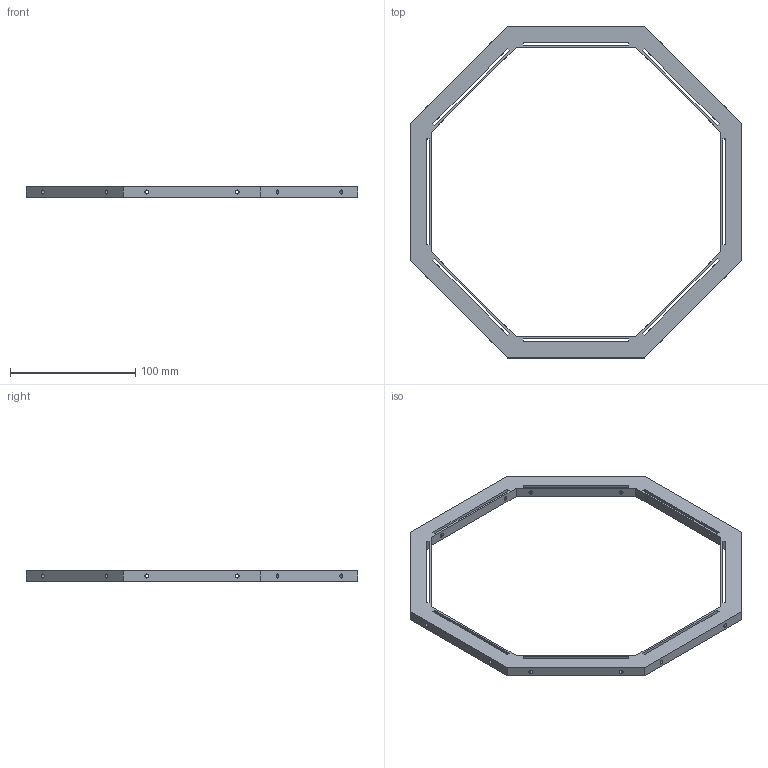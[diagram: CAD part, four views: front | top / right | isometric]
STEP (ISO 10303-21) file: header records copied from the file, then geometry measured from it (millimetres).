
FILE_DESCRIPTION((''),'2;1');
FILE_NAME('RING8_32_R2','2026-10-06T14:54:11',('line0'),(''),'CREO PARAMETRIC BY PTC INC, 2024344','CREO PARAMETRIC BY PTC INC, 2024344','');
FILE_SCHEMA(('AUTOMOTIVE_DESIGN { 1 0 10303 214 1 1 1 1 }'));
Length unit declared in the file: millimetre
Products named in the file (1): RING8_32_R2
Bounding box: 265 x 265 x 8 mm (x, y, z)
Volume: 97948.6 mm3; surface area: 51088.3 mm2
Topology: 1 solids, 1 shells, 114 faces, 336 edges, 224 vertices
Faces by surface type: cylinder 64, plane 50
Entity records: 5184 total; most frequent: DIRECTION 709, CARTESIAN_POINT 687, ORIENTED_EDGE 672, PRESENTATION_STYLE_ASSIGNMENT 338, STYLED_ITEM 338, CURVE_STYLE 337, EDGE_CURVE 336, AXIS2_PLACEMENT_3D 249
